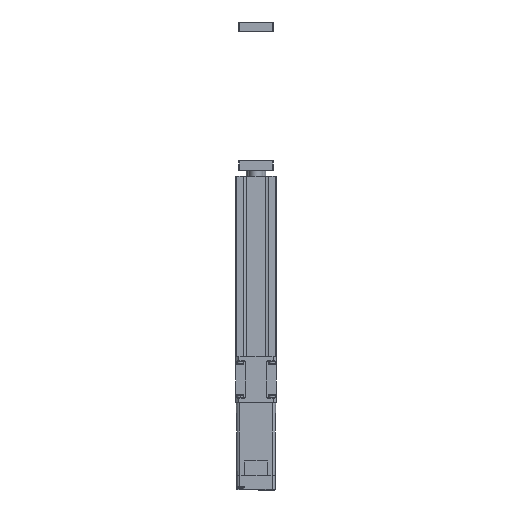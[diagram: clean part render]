
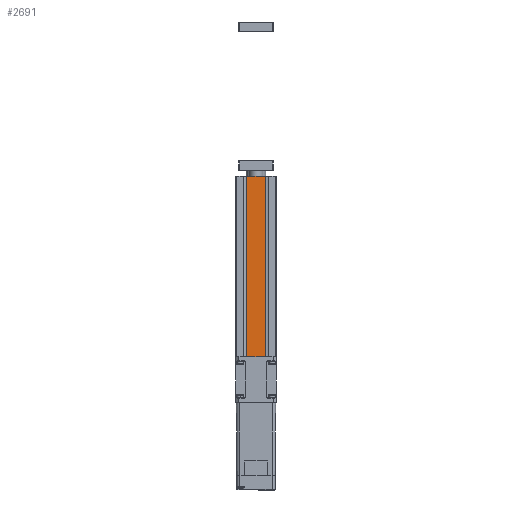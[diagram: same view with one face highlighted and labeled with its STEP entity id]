
A CAD part, left-side view. The second image highlights one B-rep face of the part: STEP entity #2691.
In plain terms, the highlighted planar face has unit normal (-1, 0, 0).
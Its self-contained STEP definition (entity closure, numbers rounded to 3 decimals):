
#111 = FACE_OUTER_BOUND ( 'NONE', #1450, .T. ) ;
#529 = VERTEX_POINT ( 'NONE', #2448 ) ;
#721 = CARTESIAN_POINT ( 'NONE',  ( -31.5, -9., 130. ) ) ;
#722 = DIRECTION ( 'NONE',  ( 0., 0., 1. ) ) ;
#877 = DIRECTION ( 'NONE',  ( 0., 0., -1. ) ) ;
#1191 = LINE ( 'NONE', #10256, #10964 ) ;
#1333 = EDGE_CURVE ( 'NONE', #7087, #4561, #1191, .T. ) ;
#1384 = LINE ( 'NONE', #2827, #6555 ) ;
#1450 = EDGE_LOOP ( 'NONE', ( #7471, #5313, #6334, #7459 ) ) ;
#1527 = CARTESIAN_POINT ( 'NONE',  ( -31.5, -6.821, 0. ) ) ;
#1735 = DIRECTION ( 'NONE',  ( 0., 1., 0. ) ) ;
#2448 = CARTESIAN_POINT ( 'NONE',  ( -31.5, 6.821, 130. ) ) ;
#2691 = ADVANCED_FACE ( 'NONE', ( #111 ), #10119, .T. ) ;
#2827 = CARTESIAN_POINT ( 'NONE',  ( -31.5, -9., 0. ) ) ;
#3052 = VECTOR ( 'NONE', #1735, 1000. ) ;
#3782 = CARTESIAN_POINT ( 'NONE',  ( -31.5, -6.821, 130. ) ) ;
#3977 = VECTOR ( 'NONE', #877, 1000. ) ;
#4327 = EDGE_CURVE ( 'NONE', #4561, #529, #8371, .T. ) ;
#4561 = VERTEX_POINT ( 'NONE', #3782 ) ;
#4576 = CARTESIAN_POINT ( 'NONE',  ( -31.5, -9., 130. ) ) ;
#5313 = ORIENTED_EDGE ( 'NONE', *, *, #8388, .T. ) ;
#6126 = CARTESIAN_POINT ( 'NONE',  ( -31.5, 6.821, 0. ) ) ;
#6334 = ORIENTED_EDGE ( 'NONE', *, *, #6650, .F. ) ;
#6555 = VECTOR ( 'NONE', #7320, 1000. ) ;
#6650 = EDGE_CURVE ( 'NONE', #7087, #7049, #1384, .T. ) ;
#7049 = VERTEX_POINT ( 'NONE', #6126 ) ;
#7087 = VERTEX_POINT ( 'NONE', #1527 ) ;
#7182 = DIRECTION ( 'NONE',  ( -1., 0., 0. ) ) ;
#7299 = DIRECTION ( 'NONE',  ( 0., 0., 1. ) ) ;
#7320 = DIRECTION ( 'NONE',  ( 0., 1., 0. ) ) ;
#7459 = ORIENTED_EDGE ( 'NONE', *, *, #1333, .T. ) ;
#7471 = ORIENTED_EDGE ( 'NONE', *, *, #4327, .T. ) ;
#8371 = LINE ( 'NONE', #4576, #3052 ) ;
#8388 = EDGE_CURVE ( 'NONE', #529, #7049, #11370, .T. ) ;
#9152 = CARTESIAN_POINT ( 'NONE',  ( -31.5, 6.821, 0. ) ) ;
#10119 = PLANE ( 'NONE',  #12274 ) ;
#10256 = CARTESIAN_POINT ( 'NONE',  ( -31.5, -6.821, 130. ) ) ;
#10964 = VECTOR ( 'NONE', #722, 1000. ) ;
#11370 = LINE ( 'NONE', #9152, #3977 ) ;
#12274 = AXIS2_PLACEMENT_3D ( 'NONE', #721, #7182, #7299 ) ;
